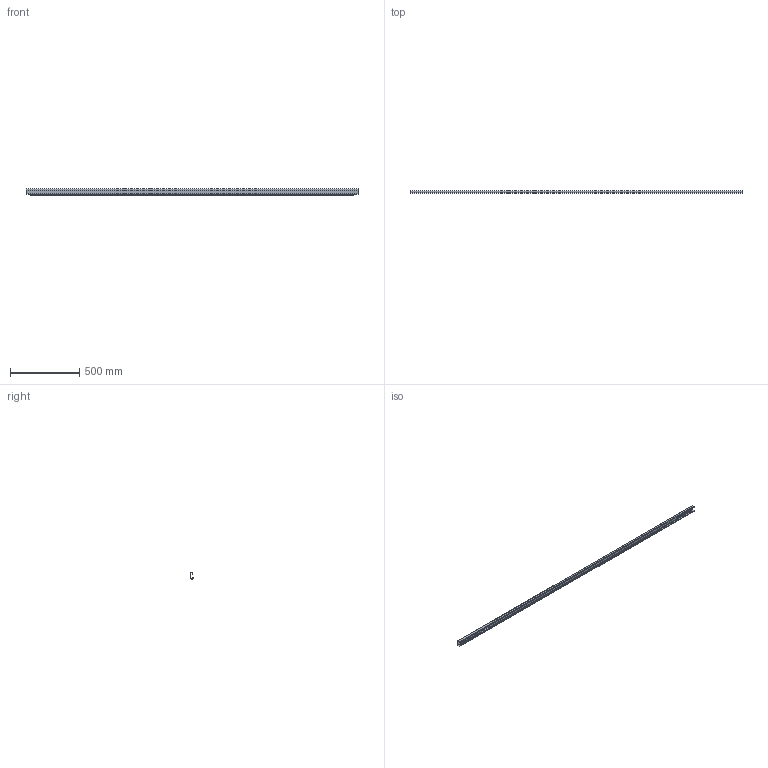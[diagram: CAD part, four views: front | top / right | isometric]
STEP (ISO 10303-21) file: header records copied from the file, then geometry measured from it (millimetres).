
FILE_DESCRIPTION( ( '' ), '1' );
FILE_NAME( 'D:/1.AUTOCAD EXPORT/Group 10/sheet_10_1/Remaining/9995122.stp', '2013-11-08T11:16:11', ( '' ), ( '' ), ' ', ' ', ' ' );
FILE_SCHEMA( ( 'CONFIG_CONTROL_DESIGN' ) );
Length unit declared in the file: millimetre
Products named in the file (1): 1
Bounding box: 2400 x 19.1 x 46 mm (x, y, z)
Volume: 430578.3 mm3; surface area: 437258.8 mm2
Topology: 1 solids, 1 shells, 39 faces, 108 edges, 72 vertices
Faces by surface type: plane 39
Entity records: 1266 total; most frequent: CARTESIAN_POINT 220, ORIENTED_EDGE 216, DIRECTION 188, EDGE_CURVE 108, LINE 108, VECTOR 108, VERTEX_POINT 72, AXIS2_PLACEMENT_3D 40
